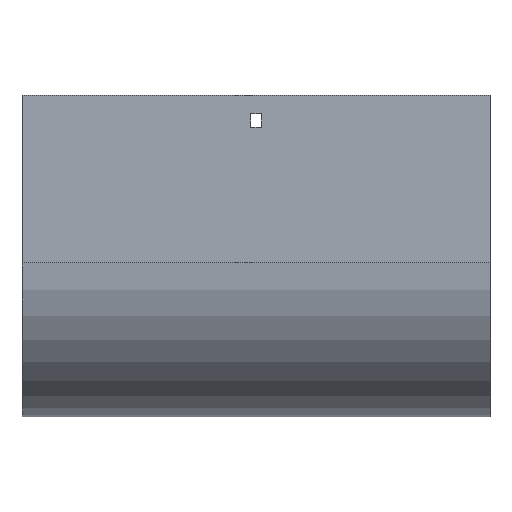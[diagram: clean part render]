
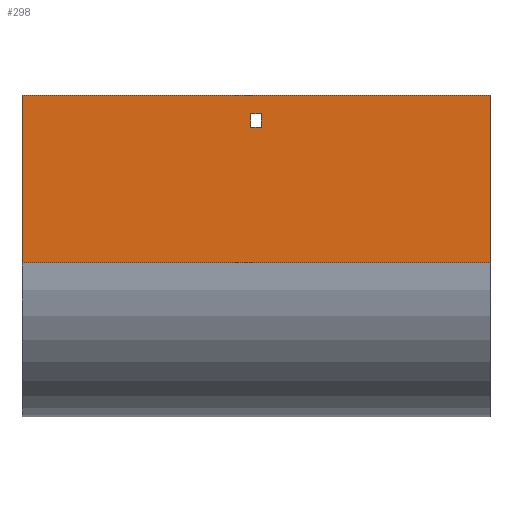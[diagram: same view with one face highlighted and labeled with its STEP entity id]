
A CAD part, front view. The second image highlights one B-rep face of the part: STEP entity #298.
In plain terms, the highlighted planar face has unit normal (0, -1, 0).
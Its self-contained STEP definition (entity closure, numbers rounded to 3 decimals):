
#41 = VECTOR ( 'NONE', #1907, 1000. ) ;
#64 = ORIENTED_EDGE ( 'NONE', *, *, #711, .F. ) ;
#83 = CARTESIAN_POINT ( 'NONE',  ( -3.25, -79., -21. ) ) ;
#134 = EDGE_CURVE ( 'NONE', #345, #1299, #336, .T. ) ;
#176 = VERTEX_POINT ( 'NONE', #955 ) ;
#189 = ORIENTED_EDGE ( 'NONE', *, *, #1383, .T. ) ;
#284 = ORIENTED_EDGE ( 'NONE', *, *, #974, .T. ) ;
#297 = ORIENTED_EDGE ( 'NONE', *, *, #134, .T. ) ;
#298 = ADVANCED_FACE ( 'NONE', ( #1326, #1919 ), #573, .F. ) ;
#336 = LINE ( 'NONE', #671, #369 ) ;
#345 = VERTEX_POINT ( 'NONE', #773 ) ;
#369 = VECTOR ( 'NONE', #927, 1000. ) ;
#425 = DIRECTION ( 'NONE',  ( 0., 0., 1. ) ) ;
#496 = VERTEX_POINT ( 'NONE', #1278 ) ;
#518 = ORIENTED_EDGE ( 'NONE', *, *, #1092, .F. ) ;
#555 = VECTOR ( 'NONE', #945, 1000. ) ;
#573 = PLANE ( 'NONE',  #1416 ) ;
#587 = CARTESIAN_POINT ( 'NONE',  ( 152., -79., -109. ) ) ;
#597 = ORIENTED_EDGE ( 'NONE', *, *, #1637, .T. ) ;
#627 = LINE ( 'NONE', #637, #555 ) ;
#637 = CARTESIAN_POINT ( 'NONE',  ( -152., -79., -109. ) ) ;
#671 = CARTESIAN_POINT ( 'NONE',  ( -3.25, -79., -12. ) ) ;
#673 = LINE ( 'NONE', #980, #998 ) ;
#711 = EDGE_CURVE ( 'NONE', #1035, #176, #1073, .T. ) ;
#773 = CARTESIAN_POINT ( 'NONE',  ( -3.25, -79., -12. ) ) ;
#777 = CARTESIAN_POINT ( 'NONE',  ( -152., -79., 0. ) ) ;
#809 = DIRECTION ( 'NONE',  ( 0., 0., 1. ) ) ;
#849 = CARTESIAN_POINT ( 'NONE',  ( 152., -79., 0. ) ) ;
#927 = DIRECTION ( 'NONE',  ( 1., 0., 0. ) ) ;
#935 = CARTESIAN_POINT ( 'NONE',  ( -3.25, -79., -21. ) ) ;
#945 = DIRECTION ( 'NONE',  ( 0., 0., -1. ) ) ;
#955 = CARTESIAN_POINT ( 'NONE',  ( 152., -79., -109. ) ) ;
#959 = DIRECTION ( 'NONE',  ( -1., 0., 0. ) ) ;
#974 = EDGE_CURVE ( 'NONE', #1779, #1436, #1332, .T. ) ;
#980 = CARTESIAN_POINT ( 'NONE',  ( 152., -79., 0. ) ) ;
#998 = VECTOR ( 'NONE', #959, 1000. ) ;
#1004 = CARTESIAN_POINT ( 'NONE',  ( 3.25, -79., -21. ) ) ;
#1035 = VERTEX_POINT ( 'NONE', #849 ) ;
#1037 = DIRECTION ( 'NONE',  ( 0., 0., -1. ) ) ;
#1073 = LINE ( 'NONE', #587, #1590 ) ;
#1087 = LINE ( 'NONE', #935, #1740 ) ;
#1092 = EDGE_CURVE ( 'NONE', #176, #496, #1650, .T. ) ;
#1179 = CARTESIAN_POINT ( 'NONE',  ( 152., -79., -109. ) ) ;
#1182 = LINE ( 'NONE', #1004, #1199 ) ;
#1199 = VECTOR ( 'NONE', #1037, 1000. ) ;
#1210 = EDGE_CURVE ( 'NONE', #1436, #345, #1087, .T. ) ;
#1278 = CARTESIAN_POINT ( 'NONE',  ( -152., -79., -109. ) ) ;
#1299 = VERTEX_POINT ( 'NONE', #1705 ) ;
#1319 = EDGE_CURVE ( 'NONE', #1803, #496, #627, .T. ) ;
#1326 = FACE_BOUND ( 'NONE', #1838, .T. ) ;
#1332 = LINE ( 'NONE', #83, #41 ) ;
#1351 = CARTESIAN_POINT ( 'NONE',  ( 152., -79., -109. ) ) ;
#1373 = ORIENTED_EDGE ( 'NONE', *, *, #1210, .T. ) ;
#1383 = EDGE_CURVE ( 'NONE', #1035, #1803, #673, .T. ) ;
#1416 = AXIS2_PLACEMENT_3D ( 'NONE', #1179, #1765, #425 ) ;
#1436 = VERTEX_POINT ( 'NONE', #1546 ) ;
#1546 = CARTESIAN_POINT ( 'NONE',  ( -3.25, -79., -21. ) ) ;
#1590 = VECTOR ( 'NONE', #1662, 1000. ) ;
#1613 = ORIENTED_EDGE ( 'NONE', *, *, #1319, .T. ) ;
#1637 = EDGE_CURVE ( 'NONE', #1299, #1779, #1182, .T. ) ;
#1650 = LINE ( 'NONE', #1351, #1875 ) ;
#1659 = DIRECTION ( 'NONE',  ( -1., 0., 0. ) ) ;
#1662 = DIRECTION ( 'NONE',  ( 0., 0., -1. ) ) ;
#1666 = CARTESIAN_POINT ( 'NONE',  ( 3.25, -79., -21. ) ) ;
#1705 = CARTESIAN_POINT ( 'NONE',  ( 3.25, -79., -12. ) ) ;
#1740 = VECTOR ( 'NONE', #809, 1000. ) ;
#1759 = EDGE_LOOP ( 'NONE', ( #1613, #518, #64, #189 ) ) ;
#1765 = DIRECTION ( 'NONE',  ( 0., 1., 0. ) ) ;
#1779 = VERTEX_POINT ( 'NONE', #1666 ) ;
#1803 = VERTEX_POINT ( 'NONE', #777 ) ;
#1838 = EDGE_LOOP ( 'NONE', ( #284, #1373, #297, #597 ) ) ;
#1875 = VECTOR ( 'NONE', #1659, 1000. ) ;
#1907 = DIRECTION ( 'NONE',  ( -1., 0., 0. ) ) ;
#1919 = FACE_OUTER_BOUND ( 'NONE', #1759, .T. ) ;
